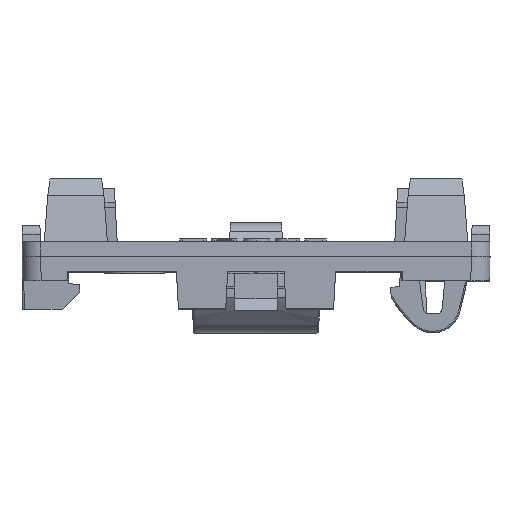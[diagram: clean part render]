
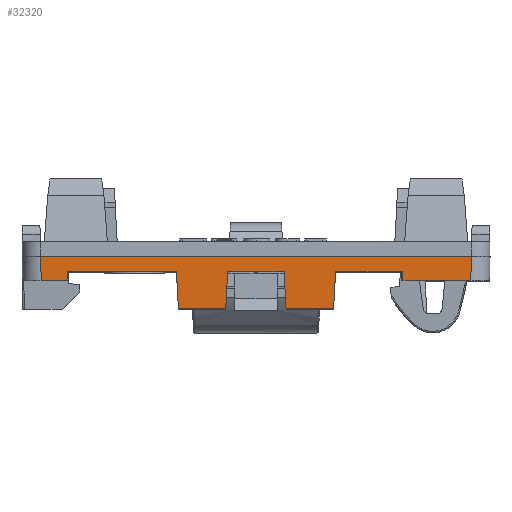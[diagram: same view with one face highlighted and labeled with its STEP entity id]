
A CAD part, top view. The second image highlights one B-rep face of the part: STEP entity #32320.
In plain terms, the highlighted planar face has unit normal (0, -0.018, 1).
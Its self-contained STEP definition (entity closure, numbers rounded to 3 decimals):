
#3864=DIRECTION('',(1.,0.,0.));
#3865=VECTOR('',#3864,46.001);
#3866=CARTESIAN_POINT('',(-23.,1.6,25.));
#3867=LINE('',#3866,#3865);
#4316=DIRECTION('',(-1.,0.,0.));
#4317=VECTOR('',#4316,7.252);
#4318=CARTESIAN_POINT('',(22.955,-1.,24.955));
#4319=LINE('',#4318,#4317);
#4329=CARTESIAN_POINT('',(22.955,-1.,24.955));
#4357=CARTESIAN_POINT('',(-22.955,-1.,24.955));
#4368=DIRECTION('',(-1.,0.,0.));
#4369=VECTOR('',#4368,2.752);
#4370=CARTESIAN_POINT('',(-20.202,-1.,24.955));
#4371=LINE('',#4370,#4369);
#4379=CARTESIAN_POINT('',(-20.202,-1.,24.955));
#5222=DIRECTION('',(1.,0.,0.));
#5223=VECTOR('',#5222,11.65);
#5224=CARTESIAN_POINT('',(-20.15,0.,24.972));
#5225=LINE('',#5224,#5223);
#5313=DIRECTION('',(1.,0.,0.));
#5314=VECTOR('',#5313,7.15);
#5315=CARTESIAN_POINT('',(8.5,0.,24.972));
#5316=LINE('',#5315,#5314);
#11042=DIRECTION('',(-0.052,0.998,0.017));
#11043=VECTOR('',#11042,1.002);
#11044=CARTESIAN_POINT('',(15.702,-1.,24.955));
#11045=LINE('',#11044,#11043);
#11049=DIRECTION('',(0.052,0.998,0.017));
#11050=VECTOR('',#11049,4.006);
#11051=CARTESIAN_POINT('',(8.29,-4.,24.902));
#11052=LINE('',#11051,#11050);
#11056=DIRECTION('',(-0.052,0.998,0.017));
#11057=VECTOR('',#11056,4.006);
#11058=CARTESIAN_POINT('',(3.21,-4.,24.902));
#11059=LINE('',#11058,#11057);
#11063=DIRECTION('',(1.,0.,0.));
#11064=VECTOR('',#11063,6.028);
#11065=CARTESIAN_POINT('',(-3.028,0.,24.972));
#11066=LINE('',#11065,#11064);
#11070=DIRECTION('',(0.052,0.998,0.017));
#11071=VECTOR('',#11070,4.006);
#11072=CARTESIAN_POINT('',(-3.238,-4.,24.902));
#11073=LINE('',#11072,#11071);
#11077=DIRECTION('',(-0.052,0.998,0.017));
#11078=VECTOR('',#11077,4.006);
#11079=CARTESIAN_POINT('',(-8.29,-4.,24.902));
#11080=LINE('',#11079,#11078);
#11084=DIRECTION('',(0.052,0.998,0.017));
#11085=VECTOR('',#11084,1.002);
#11086=CARTESIAN_POINT('',(-20.202,-1.,24.955));
#11087=LINE('',#11086,#11085);
#11091=DIRECTION('',(0.017,-1.,-0.017));
#11092=VECTOR('',#11091,2.601);
#11093=CARTESIAN_POINT('',(-23.,1.6,25.));
#11094=LINE('',#11093,#11092);
#11098=DIRECTION('',(0.017,1.,0.017));
#11099=VECTOR('',#11098,2.601);
#11100=CARTESIAN_POINT('',(22.955,-1.,24.955));
#11101=LINE('',#11100,#11099);
#11260=DIRECTION('',(1.,0.,0.));
#11261=VECTOR('',#11260,5.081);
#11262=CARTESIAN_POINT('',(3.21,-4.,24.902));
#11263=LINE('',#11262,#11261);
#11274=DIRECTION('',(1.,0.,0.));
#11275=VECTOR('',#11274,5.053);
#11276=CARTESIAN_POINT('',(-8.29,-4.,24.902));
#11277=LINE('',#11276,#11275);
#25673=CARTESIAN_POINT('',(-23.,1.6,25.));
#25674=CARTESIAN_POINT('',(23.,1.6,25.));
#25675=VERTEX_POINT('',#25673);
#25676=VERTEX_POINT('',#25674);
#25794=VERTEX_POINT('',#4329);
#25795=VERTEX_POINT('',#4357);
#25853=CARTESIAN_POINT('',(-8.29,-4.,24.902));
#25854=CARTESIAN_POINT('',(-3.238,-4.,24.902));
#25855=VERTEX_POINT('',#25853);
#25856=VERTEX_POINT('',#25854);
#25859=CARTESIAN_POINT('',(3.21,-4.,24.902));
#25860=VERTEX_POINT('',#25859);
#25865=CARTESIAN_POINT('',(8.29,-4.,24.902));
#25866=VERTEX_POINT('',#25865);
#25913=CARTESIAN_POINT('',(-3.028,0.,24.972));
#25914=CARTESIAN_POINT('',(3.,0.,24.972));
#25915=VERTEX_POINT('',#25913);
#25916=VERTEX_POINT('',#25914);
#25917=CARTESIAN_POINT('',(8.5,0.,24.972));
#25918=VERTEX_POINT('',#25917);
#25919=CARTESIAN_POINT('',(-8.5,0.,24.972));
#25920=VERTEX_POINT('',#25919);
#26314=CARTESIAN_POINT('',(15.702,-1.,24.955));
#26315=CARTESIAN_POINT('',(15.65,0.,24.972));
#26316=VERTEX_POINT('',#26314);
#26317=VERTEX_POINT('',#26315);
#26346=VERTEX_POINT('',#4379);
#26347=CARTESIAN_POINT('',(-20.15,0.,24.972));
#26348=VERTEX_POINT('',#26347);
#32288=CARTESIAN_POINT('',(-25.,1.6,25.));
#32289=DIRECTION('',(0.,-0.017,1.));
#32290=DIRECTION('',(1.,0.,0.));
#32291=AXIS2_PLACEMENT_3D('',#32288,#32289,#32290);
#32292=PLANE('',#32291);
#32293=ORIENTED_EDGE('',*,*,#32280,.T.);
#32294=ORIENTED_EDGE('',*,*,#28865,.F.);
#32296=ORIENTED_EDGE('',*,*,#32295,.F.);
#32298=ORIENTED_EDGE('',*,*,#32297,.F.);
#32300=ORIENTED_EDGE('',*,*,#32299,.T.);
#32301=ORIENTED_EDGE('',*,*,#28845,.F.);
#32303=ORIENTED_EDGE('',*,*,#32302,.F.);
#32305=ORIENTED_EDGE('',*,*,#32304,.F.);
#32307=ORIENTED_EDGE('',*,*,#32306,.T.);
#32308=ORIENTED_EDGE('',*,*,#28825,.F.);
#32310=ORIENTED_EDGE('',*,*,#32309,.F.);
#32311=ORIENTED_EDGE('',*,*,#28658,.T.);
#32313=ORIENTED_EDGE('',*,*,#32312,.F.);
#32314=ORIENTED_EDGE('',*,*,#28351,.T.);
#32316=ORIENTED_EDGE('',*,*,#32315,.F.);
#32317=ORIENTED_EDGE('',*,*,#28638,.T.);
#32318=EDGE_LOOP('',(#32293,#32294,#32296,#32298,#32300,#32301,#32303,#32305,
#32307,#32308,#32310,#32311,#32313,#32314,#32316,#32317));
#32319=FACE_OUTER_BOUND('',#32318,.F.);
#28351=EDGE_CURVE('',#25675,#25676,#3867,.T.);
#28638=EDGE_CURVE('',#25794,#26316,#4319,.T.);
#28658=EDGE_CURVE('',#26346,#25795,#4371,.T.);
#28825=EDGE_CURVE('',#26348,#25920,#5225,.T.);
#28845=EDGE_CURVE('',#25915,#25916,#11066,.T.);
#28865=EDGE_CURVE('',#25918,#26317,#5316,.T.);
#32280=EDGE_CURVE('',#26316,#26317,#11045,.T.);
#32295=EDGE_CURVE('',#25866,#25918,#11052,.T.);
#32297=EDGE_CURVE('',#25860,#25866,#11263,.T.);
#32299=EDGE_CURVE('',#25860,#25916,#11059,.T.);
#32302=EDGE_CURVE('',#25856,#25915,#11073,.T.);
#32304=EDGE_CURVE('',#25855,#25856,#11277,.T.);
#32306=EDGE_CURVE('',#25855,#25920,#11080,.T.);
#32309=EDGE_CURVE('',#26346,#26348,#11087,.T.);
#32312=EDGE_CURVE('',#25675,#25795,#11094,.T.);
#32315=EDGE_CURVE('',#25794,#25676,#11101,.T.);
#32320=ADVANCED_FACE('',(#32319),#32292,.T.);
